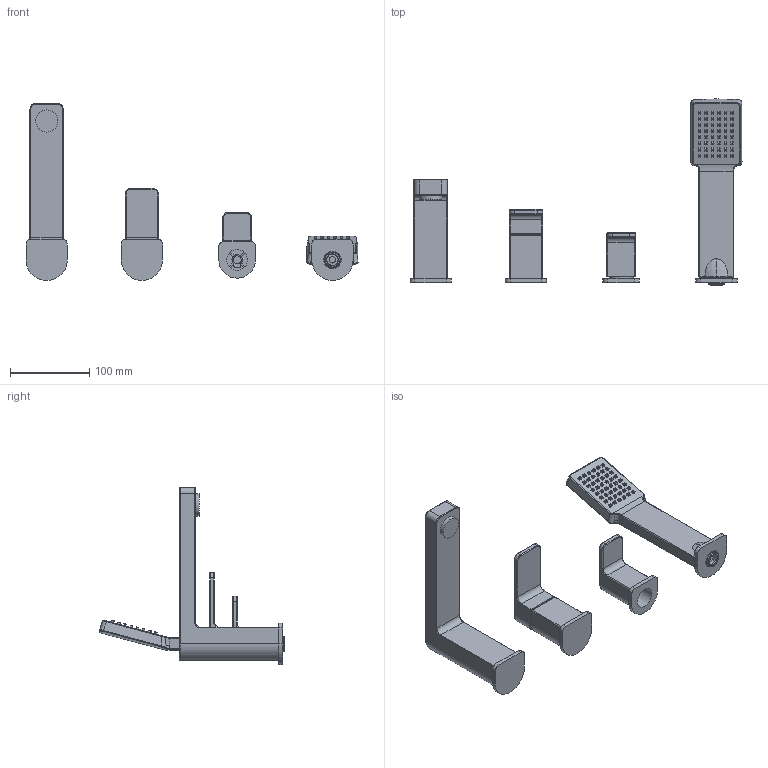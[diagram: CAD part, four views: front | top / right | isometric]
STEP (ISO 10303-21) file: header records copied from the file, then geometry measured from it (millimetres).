
FILE_DESCRIPTION(/* description */ (''),/* implementation_level */ '2;1');
FILE_NAME(/* name */ 'c:\worker\convert-fusion-oct-2018\tmp\job-1\2\output\files\5cbe025f-44a5-432a-90ae-98b8be8af23c\3ea5bfca-4b9c-45a3-9590-a049b3d1f403.stp',/* time_stamp */ '2018-11-23T11:19:23+00:00',/* author */ (''),/* organization */ (''),/* preprocessor_version */ 'ST-DEVELOPER v17.2',/* originating_system */ 'Autodesk Translation Framework v7.6.0.251',/* authorisation */ '');
FILE_SCHEMA (('AUTOMOTIVE_DESIGN { 1 0 10303 214 3 1 1 }'));
Length unit declared in the file: millimetre
Products named in the file (2): !BA7832; !Angel-R v1
Assembly tree (1 placements, depth 2):
  !BA7832
    !Angel-R v1
Bounding box: 418.23 x 234.28 x 223 mm (x, y, z)
Volume: 766459.7 mm3; surface area: 155699.6 mm2
Topology: 10 solids, 10 shells, 1186 faces, 2766 edges, 1506 vertices
Faces by surface type: cylinder 537, plane 381, sphere 197, bspline 40, torus 28, cone 3
Full cylindrical faces by diameter (mm): 1.8 x48, 4 x1, 6.6 x1, 8 x1, 10 x1, 14.2 x1, 16.938 x3, 19.791 x4, 22 x1, 26 x1, 28 x1, 30 x1
Entity records: 35328 total; most frequent: CARTESIAN_POINT 8955, DIRECTION 5983, ORIENTED_EDGE 5138, EDGE_CURVE 2569, AXIS2_PLACEMENT_3D 2343, VERTEX_POINT 1506, EDGE_LOOP 1297, LINE 1297
